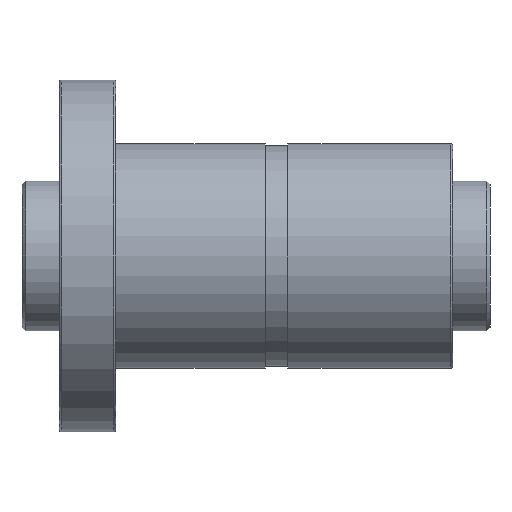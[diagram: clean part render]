
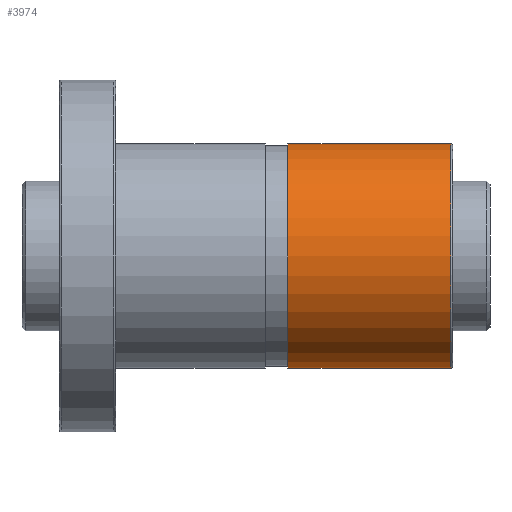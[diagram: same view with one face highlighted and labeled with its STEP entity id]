
A CAD part, front view. The second image highlights one B-rep face of the part: STEP entity #3974.
In plain terms, the highlighted cylindrical face has radius 30 mm (diameter 60 mm), a partial arc.
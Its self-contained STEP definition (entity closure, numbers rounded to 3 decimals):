
#45 = DIRECTION ( 'NONE',  ( -1., 0., 0. ) ) ;
#93 = AXIS2_PLACEMENT_3D ( 'NONE', #2003, #2999, #1696 ) ;
#101 = EDGE_CURVE ( 'NONE', #2795, #4096, #3996, .T. ) ;
#106 = CARTESIAN_POINT ( 'NONE',  ( 105., 0., 0. ) ) ;
#210 = VECTOR ( 'NONE', #45, 1000. ) ;
#213 = AXIS2_PLACEMENT_3D ( 'NONE', #106, #1784, #3750 ) ;
#227 = EDGE_LOOP ( 'NONE', ( #1186, #1961, #2225, #2933 ) ) ;
#1186 = ORIENTED_EDGE ( 'NONE', *, *, #2197, .F. ) ;
#1461 = EDGE_CURVE ( 'NONE', #2209, #2795, #3220, .T. ) ;
#1696 = DIRECTION ( 'NONE',  ( 0., 0., -1. ) ) ;
#1768 = CARTESIAN_POINT ( 'NONE',  ( 105., 0., -30. ) ) ;
#1784 = DIRECTION ( 'NONE',  ( -1., 0., 0. ) ) ;
#1841 = CARTESIAN_POINT ( 'NONE',  ( 61., 0., 0. ) ) ;
#1961 = ORIENTED_EDGE ( 'NONE', *, *, #1461, .T. ) ;
#2003 = CARTESIAN_POINT ( 'NONE',  ( 104.5, 0., 0. ) ) ;
#2095 = LINE ( 'NONE', #1768, #210 ) ;
#2167 = DIRECTION ( 'NONE',  ( 1., 0., 0. ) ) ;
#2197 = EDGE_CURVE ( 'NONE', #2209, #3494, #2095, .T. ) ;
#2209 = VERTEX_POINT ( 'NONE', #3757 ) ;
#2225 = ORIENTED_EDGE ( 'NONE', *, *, #101, .T. ) ;
#2408 = FACE_OUTER_BOUND ( 'NONE', #227, .T. ) ;
#2588 = DIRECTION ( 'NONE',  ( -1., 0., 0. ) ) ;
#2795 = VERTEX_POINT ( 'NONE', #3912 ) ;
#2933 = ORIENTED_EDGE ( 'NONE', *, *, #4082, .T. ) ;
#2999 = DIRECTION ( 'NONE',  ( -1., 0., 0. ) ) ;
#3103 = VECTOR ( 'NONE', #2588, 1000. ) ;
#3220 = CIRCLE ( 'NONE', #93, 30. ) ;
#3430 = CARTESIAN_POINT ( 'NONE',  ( 61., 0., -30. ) ) ;
#3493 = CARTESIAN_POINT ( 'NONE',  ( 61., 0., 30. ) ) ;
#3494 = VERTEX_POINT ( 'NONE', #3430 ) ;
#3750 = DIRECTION ( 'NONE',  ( 0., 0., 1. ) ) ;
#3755 = CYLINDRICAL_SURFACE ( 'NONE', #213, 30. ) ;
#3757 = CARTESIAN_POINT ( 'NONE',  ( 104.5, 0., -30. ) ) ;
#3807 = DIRECTION ( 'NONE',  ( 0., 0., -1. ) ) ;
#3868 = AXIS2_PLACEMENT_3D ( 'NONE', #1841, #2167, #3807 ) ;
#3912 = CARTESIAN_POINT ( 'NONE',  ( 104.5, 0., 30. ) ) ;
#3974 = ADVANCED_FACE ( 'NONE', ( #2408 ), #3755, .T. ) ;
#3996 = LINE ( 'NONE', #4246, #3103 ) ;
#4082 = EDGE_CURVE ( 'NONE', #4096, #3494, #4247, .T. ) ;
#4096 = VERTEX_POINT ( 'NONE', #3493 ) ;
#4246 = CARTESIAN_POINT ( 'NONE',  ( 105., 0., 30. ) ) ;
#4247 = CIRCLE ( 'NONE', #3868, 30. ) ;
